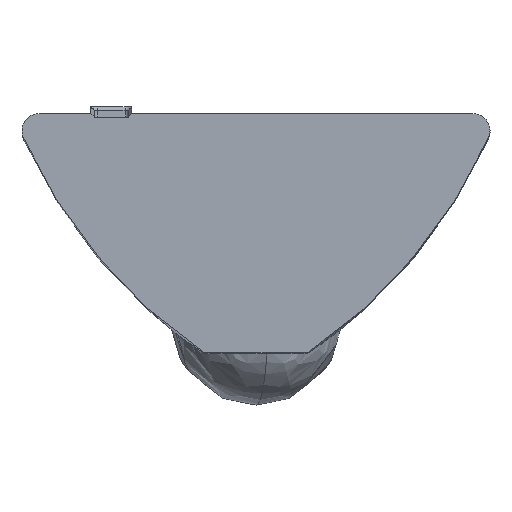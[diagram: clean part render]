
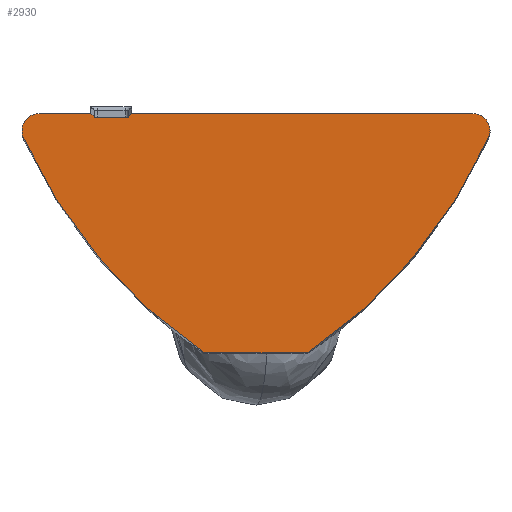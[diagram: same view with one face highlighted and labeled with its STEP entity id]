
A CAD part, top view. The second image highlights one B-rep face of the part: STEP entity #2930.
In plain terms, the highlighted planar face has unit normal (0, 0, 1).
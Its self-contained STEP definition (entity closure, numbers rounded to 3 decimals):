
#114 = DIRECTION ( 'NONE',  ( 0., 0., -1. ) ) ;
#227 = VERTEX_POINT ( 'NONE', #5929 ) ;
#244 = DIRECTION ( 'NONE',  ( -1., 0., 0. ) ) ;
#320 = DIRECTION ( 'NONE',  ( 1., 0., 0. ) ) ;
#619 = DIRECTION ( 'NONE',  ( -1., 0., 0. ) ) ;
#670 = VERTEX_POINT ( 'NONE', #4458 ) ;
#739 = CARTESIAN_POINT ( 'NONE',  ( -48.003, 11.241, 34.168 ) ) ;
#821 = AXIS2_PLACEMENT_3D ( 'NONE', #4374, #114, #1975 ) ;
#853 = LINE ( 'NONE', #4077, #1299 ) ;
#1044 = LINE ( 'NONE', #5138, #4492 ) ;
#1111 = FACE_OUTER_BOUND ( 'NONE', #3563, .T. ) ;
#1178 = ORIENTED_EDGE ( 'NONE', *, *, #4254, .F. ) ;
#1260 = ORIENTED_EDGE ( 'NONE', *, *, #5055, .F. ) ;
#1299 = VECTOR ( 'NONE', #6044, 1000. ) ;
#1317 = DIRECTION ( 'NONE',  ( -1., 0., 0. ) ) ;
#1335 = CARTESIAN_POINT ( 'NONE',  ( -47.547, 11.036, 34.168 ) ) ;
#1406 = VERTEX_POINT ( 'NONE', #3900 ) ;
#1433 = CARTESIAN_POINT ( 'NONE',  ( -61.159, 11.036, 34.168 ) ) ;
#1573 = CARTESIAN_POINT ( 'NONE',  ( -60.703, 11.741, 34.168 ) ) ;
#1789 = AXIS2_PLACEMENT_3D ( 'NONE', #739, #5269, #244 ) ;
#1862 = VERTEX_POINT ( 'NONE', #4313 ) ;
#1937 = CARTESIAN_POINT ( 'NONE',  ( -47.477, 17.185, 34.168 ) ) ;
#1974 = AXIS2_PLACEMENT_3D ( 'NONE', #1937, #5054, #3276 ) ;
#1975 = DIRECTION ( 'NONE',  ( 1., 0., 0. ) ) ;
#2055 = CARTESIAN_POINT ( 'NONE',  ( -59.185, 11.739, 34.168 ) ) ;
#2064 = VERTEX_POINT ( 'NONE', #6034 ) ;
#2179 = ORIENTED_EDGE ( 'NONE', *, *, #4577, .T. ) ;
#2500 = ORIENTED_EDGE ( 'NONE', *, *, #3395, .T. ) ;
#2665 = CIRCLE ( 'NONE', #821, 0.5 ) ;
#2747 = CARTESIAN_POINT ( 'NONE',  ( -59.089, 11.641, 34.168 ) ) ;
#2876 = LINE ( 'NONE', #3892, #4030 ) ;
#2918 = CARTESIAN_POINT ( 'NONE',  ( -61.229, 17.185, 34.168 ) ) ;
#2930 = ADVANCED_FACE ( 'NONE', ( #1111 ), #4419, .F. ) ;
#2966 = DIRECTION ( 'NONE',  ( -1., 0., 0. ) ) ;
#2977 = DIRECTION ( 'NONE',  ( 1., 0., 0. ) ) ;
#3004 = DIRECTION ( 'NONE',  ( 0., 0., -1. ) ) ;
#3005 = CARTESIAN_POINT ( 'NONE',  ( -60.703, 11.241, 34.168 ) ) ;
#3129 = CARTESIAN_POINT ( 'NONE',  ( -47.503, 11.241, 34.168 ) ) ;
#3203 = VERTEX_POINT ( 'NONE', #1335 ) ;
#3251 = CIRCLE ( 'NONE', #5089, 0.5 ) ;
#3276 = DIRECTION ( 'NONE',  ( 1., 0., 0. ) ) ;
#3338 = VECTOR ( 'NONE', #1317, 1000. ) ;
#3352 = VERTEX_POINT ( 'NONE', #3129 ) ;
#3395 = EDGE_CURVE ( 'NONE', #670, #1862, #853, .T. ) ;
#3447 = AXIS2_PLACEMENT_3D ( 'NONE', #3005, #4864, #320 ) ;
#3505 = CARTESIAN_POINT ( 'NONE',  ( -48.003, 11.241, 34.168 ) ) ;
#3507 = DIRECTION ( 'NONE',  ( 1., 0., 0. ) ) ;
#3527 = ORIENTED_EDGE ( 'NONE', *, *, #3624, .T. ) ;
#3540 = ORIENTED_EDGE ( 'NONE', *, *, #5177, .F. ) ;
#3563 = EDGE_LOOP ( 'NONE', ( #4321, #3527, #4072, #5035, #5652, #1260, #3540, #4886, #1178, #2179, #2500 ) ) ;
#3624 = EDGE_CURVE ( 'NONE', #4568, #2064, #5242, .T. ) ;
#3628 = CIRCLE ( 'NONE', #1974, 15. ) ;
#3777 = CARTESIAN_POINT ( 'NONE',  ( -48.003, 11.741, 34.168 ) ) ;
#3892 = CARTESIAN_POINT ( 'NONE',  ( -48.003, 11.741, 34.168 ) ) ;
#3900 = CARTESIAN_POINT ( 'NONE',  ( -55.853, 4.741, 34.168 ) ) ;
#3912 = DIRECTION ( 'NONE',  ( -0.7, 0.714, 0. ) ) ;
#4016 = CIRCLE ( 'NONE', #3447, 0.5 ) ;
#4030 = VECTOR ( 'NONE', #2966, 1000. ) ;
#4034 = EDGE_CURVE ( 'NONE', #2064, #4035, #2876, .T. ) ;
#4035 = VERTEX_POINT ( 'NONE', #1573 ) ;
#4072 = ORIENTED_EDGE ( 'NONE', *, *, #4034, .T. ) ;
#4077 = CARTESIAN_POINT ( 'NONE',  ( -57.887, 11.843, 34.168 ) ) ;
#4235 = DIRECTION ( 'NONE',  ( 0., 0., -1. ) ) ;
#4254 = EDGE_CURVE ( 'NONE', #227, #3352, #2665, .T. ) ;
#4313 = CARTESIAN_POINT ( 'NONE',  ( -58.085, 11.641, 34.168 ) ) ;
#4321 = ORIENTED_EDGE ( 'NONE', *, *, #5616, .F. ) ;
#4354 = CARTESIAN_POINT ( 'NONE',  ( -59.087, 11.641, 34.168 ) ) ;
#4374 = CARTESIAN_POINT ( 'NONE',  ( -48.003, 11.241, 34.168 ) ) ;
#4419 = PLANE ( 'NONE',  #1789 ) ;
#4458 = CARTESIAN_POINT ( 'NONE',  ( -57.987, 11.741, 34.168 ) ) ;
#4492 = VECTOR ( 'NONE', #619, 1000. ) ;
#4539 = EDGE_CURVE ( 'NONE', #1406, #5135, #3628, .T. ) ;
#4568 = VERTEX_POINT ( 'NONE', #2747 ) ;
#4577 = EDGE_CURVE ( 'NONE', #227, #670, #5478, .T. ) ;
#4864 = DIRECTION ( 'NONE',  ( 0., 0., -1. ) ) ;
#4886 = ORIENTED_EDGE ( 'NONE', *, *, #5946, .F. ) ;
#5035 = ORIENTED_EDGE ( 'NONE', *, *, #5237, .F. ) ;
#5054 = DIRECTION ( 'NONE',  ( 0., 0., -1. ) ) ;
#5055 = EDGE_CURVE ( 'NONE', #5999, #1406, #1044, .T. ) ;
#5071 = CIRCLE ( 'NONE', #5676, 15. ) ;
#5089 = AXIS2_PLACEMENT_3D ( 'NONE', #3505, #3004, #2977 ) ;
#5135 = VERTEX_POINT ( 'NONE', #1433 ) ;
#5138 = CARTESIAN_POINT ( 'NONE',  ( -48.003, 4.741, 34.168 ) ) ;
#5177 = EDGE_CURVE ( 'NONE', #3203, #5999, #5071, .T. ) ;
#5237 = EDGE_CURVE ( 'NONE', #5135, #4035, #4016, .T. ) ;
#5242 = LINE ( 'NONE', #2055, #5582 ) ;
#5269 = DIRECTION ( 'NONE',  ( 0., 0., -1. ) ) ;
#5347 = LINE ( 'NONE', #4354, #5780 ) ;
#5478 = LINE ( 'NONE', #3777, #3338 ) ;
#5582 = VECTOR ( 'NONE', #3912, 1000. ) ;
#5616 = EDGE_CURVE ( 'NONE', #4568, #1862, #5347, .T. ) ;
#5652 = ORIENTED_EDGE ( 'NONE', *, *, #4539, .F. ) ;
#5676 = AXIS2_PLACEMENT_3D ( 'NONE', #2918, #4235, #5703 ) ;
#5703 = DIRECTION ( 'NONE',  ( 1., 0., 0. ) ) ;
#5780 = VECTOR ( 'NONE', #3507, 1000. ) ;
#5818 = CARTESIAN_POINT ( 'NONE',  ( -52.853, 4.741, 34.168 ) ) ;
#5929 = CARTESIAN_POINT ( 'NONE',  ( -48.003, 11.741, 34.168 ) ) ;
#5946 = EDGE_CURVE ( 'NONE', #3352, #3203, #3251, .T. ) ;
#5999 = VERTEX_POINT ( 'NONE', #5818 ) ;
#6034 = CARTESIAN_POINT ( 'NONE',  ( -59.187, 11.741, 34.168 ) ) ;
#6044 = DIRECTION ( 'NONE',  ( -0.7, -0.714, 0. ) ) ;
